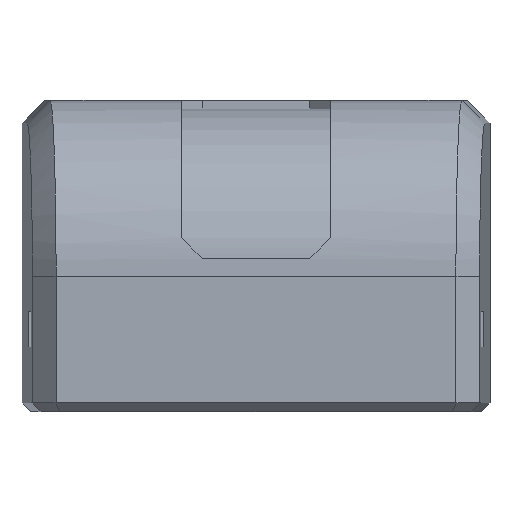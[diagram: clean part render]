
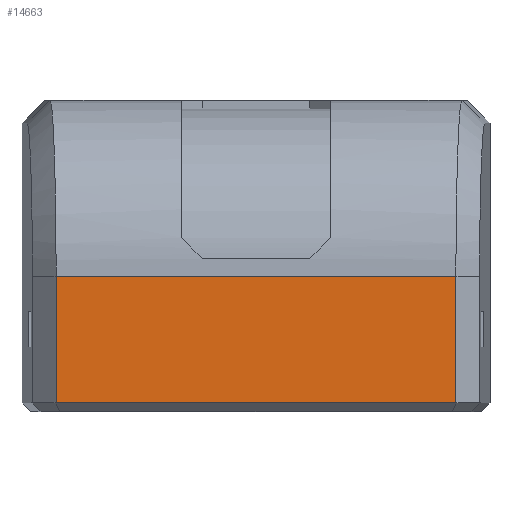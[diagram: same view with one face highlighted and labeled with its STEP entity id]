
A CAD part, front view. The second image highlights one B-rep face of the part: STEP entity #14663.
In plain terms, the highlighted planar face has unit normal (0, -1, 0).
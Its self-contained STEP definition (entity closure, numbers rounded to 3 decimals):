
#3241 = CYLINDRICAL_SURFACE('',#3242,10.);
#3242 = AXIS2_PLACEMENT_3D('',#3243,#3244,#3245);
#3243 = CARTESIAN_POINT('',(200.,-26.8,18.9));
#3244 = DIRECTION('',(1.,0.,-0.));
#3245 = DIRECTION('',(0.,-1.,0.));
#9103 = PLANE('',#9104);
#9104 = AXIS2_PLACEMENT_3D('',#9105,#9106,#9107);
#9105 = CARTESIAN_POINT('',(-12.71,-35.501,10.2));
#9106 = DIRECTION('',(0.695,0.719,-0.));
#9107 = DIRECTION('',(0.719,-0.695,0.));
#10202 = VERTEX_POINT('',#10203);
#10203 = CARTESIAN_POINT('',(11.364,-36.8,18.9));
#10294 = PLANE('',#10295);
#10295 = AXIS2_PLACEMENT_3D('',#10296,#10297,#10298);
#10296 = CARTESIAN_POINT('',(12.71,-35.501,10.2));
#10297 = DIRECTION('',(0.695,-0.719,0.));
#10298 = DIRECTION('',(-0.719,-0.695,0.));
#10452 = VERTEX_POINT('',#10453);
#10453 = CARTESIAN_POINT('',(-11.364,-36.8,18.9));
#10531 = EDGE_CURVE('',#10202,#10452,#10532,.T.);
#10532 = SURFACE_CURVE('',#10533,(#10537,#10544),.PCURVE_S1.);
#10533 = LINE('',#10534,#10535);
#10534 = CARTESIAN_POINT('',(200.,-36.8,18.9));
#10535 = VECTOR('',#10536,1.);
#10536 = DIRECTION('',(-1.,0.,0.));
#10537 = PCURVE('',#3241,#10538);
#10538 = DEFINITIONAL_REPRESENTATION('',(#10539),#10543);
#10539 = LINE('',#10540,#10541);
#10540 = CARTESIAN_POINT('',(6.283,0.));
#10541 = VECTOR('',#10542,1.);
#10542 = DIRECTION('',(-0.,-1.));
#10543 = ( GEOMETRIC_REPRESENTATION_CONTEXT(2) 
PARAMETRIC_REPRESENTATION_CONTEXT() REPRESENTATION_CONTEXT('2D SPACE',''
  ) );
#10544 = PCURVE('',#10545,#10550);
#10545 = PLANE('',#10546);
#10546 = AXIS2_PLACEMENT_3D('',#10547,#10548,#10549);
#10547 = CARTESIAN_POINT('',(-12.664,-36.8,11.2));
#10548 = DIRECTION('',(0.,1.,0.));
#10549 = DIRECTION('',(1.,0.,0.));
#10550 = DEFINITIONAL_REPRESENTATION('',(#10551),#10555);
#10551 = LINE('',#10552,#10553);
#10552 = CARTESIAN_POINT('',(212.664,-7.7));
#10553 = VECTOR('',#10554,1.);
#10554 = DIRECTION('',(-1.,0.));
#10555 = ( GEOMETRIC_REPRESENTATION_CONTEXT(2) 
PARAMETRIC_REPRESENTATION_CONTEXT() REPRESENTATION_CONTEXT('2D SPACE',''
  ) );
#13948 = B_SPLINE_SURFACE_WITH_KNOTS('',1,1,(
    (#13949,#13950)
    ,(#13951,#13952
    )),.UNSPECIFIED.,.F.,.F.,.F.,(2,2),(2,2),(0.,22.729),(0.,1.),
  .PIECEWISE_BEZIER_KNOTS.);
#13949 = CARTESIAN_POINT('',(11.158,-36.29,11.19));
#13950 = CARTESIAN_POINT('',(11.364,-36.8,11.7));
#13951 = CARTESIAN_POINT('',(-11.158,-36.29,11.19));
#13952 = CARTESIAN_POINT('',(-11.364,-36.8,11.7));
#14336 = EDGE_CURVE('',#10452,#14337,#14339,.T.);
#14337 = VERTEX_POINT('',#14338);
#14338 = CARTESIAN_POINT('',(-11.364,-36.8,11.7));
#14339 = SURFACE_CURVE('',#14340,(#14343,#14349),.PCURVE_S1.);
#14340 = B_SPLINE_CURVE_WITH_KNOTS('',1,(#14341,#14342),.UNSPECIFIED.,
  .F.,.F.,(2,2),(0.,1.),.PIECEWISE_BEZIER_KNOTS.);
#14341 = CARTESIAN_POINT('',(-11.364,-36.8,18.9));
#14342 = CARTESIAN_POINT('',(-11.364,-36.8,10.2));
#14343 = PCURVE('',#9103,#14344);
#14344 = DEFINITIONAL_REPRESENTATION('',(#14345),#14348);
#14345 = B_SPLINE_CURVE_WITH_KNOTS('',1,(#14346,#14347),.UNSPECIFIED.,
  .F.,.F.,(2,2),(0.,1.),.PIECEWISE_BEZIER_KNOTS.);
#14346 = CARTESIAN_POINT('',(1.87,-8.7));
#14347 = CARTESIAN_POINT('',(1.87,0.));
#14348 = ( GEOMETRIC_REPRESENTATION_CONTEXT(2) 
PARAMETRIC_REPRESENTATION_CONTEXT() REPRESENTATION_CONTEXT('2D SPACE',''
  ) );
#14349 = PCURVE('',#10545,#14350);
#14350 = DEFINITIONAL_REPRESENTATION('',(#14351),#14354);
#14351 = B_SPLINE_CURVE_WITH_KNOTS('',1,(#14352,#14353),.UNSPECIFIED.,
  .F.,.F.,(2,2),(0.,1.),.PIECEWISE_BEZIER_KNOTS.);
#14352 = CARTESIAN_POINT('',(1.3,-7.7));
#14353 = CARTESIAN_POINT('',(1.3,1.));
#14354 = ( GEOMETRIC_REPRESENTATION_CONTEXT(2) 
PARAMETRIC_REPRESENTATION_CONTEXT() REPRESENTATION_CONTEXT('2D SPACE',''
  ) );
#14490 = EDGE_CURVE('',#10202,#14491,#14493,.T.);
#14491 = VERTEX_POINT('',#14492);
#14492 = CARTESIAN_POINT('',(11.364,-36.8,11.7));
#14493 = SURFACE_CURVE('',#14494,(#14497,#14503),.PCURVE_S1.);
#14494 = B_SPLINE_CURVE_WITH_KNOTS('',1,(#14495,#14496),.UNSPECIFIED.,
  .F.,.F.,(2,2),(0.,1.),.PIECEWISE_BEZIER_KNOTS.);
#14495 = CARTESIAN_POINT('',(11.364,-36.8,18.9));
#14496 = CARTESIAN_POINT('',(11.364,-36.8,10.2));
#14497 = PCURVE('',#10294,#14498);
#14498 = DEFINITIONAL_REPRESENTATION('',(#14499),#14502);
#14499 = B_SPLINE_CURVE_WITH_KNOTS('',1,(#14500,#14501),.UNSPECIFIED.,
  .F.,.F.,(2,2),(0.,1.),.PIECEWISE_BEZIER_KNOTS.);
#14500 = CARTESIAN_POINT('',(1.87,-8.7));
#14501 = CARTESIAN_POINT('',(1.87,0.));
#14502 = ( GEOMETRIC_REPRESENTATION_CONTEXT(2) 
PARAMETRIC_REPRESENTATION_CONTEXT() REPRESENTATION_CONTEXT('2D SPACE',''
  ) );
#14503 = PCURVE('',#10545,#14504);
#14504 = DEFINITIONAL_REPRESENTATION('',(#14505),#14508);
#14505 = B_SPLINE_CURVE_WITH_KNOTS('',1,(#14506,#14507),.UNSPECIFIED.,
  .F.,.F.,(2,2),(0.,1.),.PIECEWISE_BEZIER_KNOTS.);
#14506 = CARTESIAN_POINT('',(24.029,-7.7));
#14507 = CARTESIAN_POINT('',(24.029,1.));
#14508 = ( GEOMETRIC_REPRESENTATION_CONTEXT(2) 
PARAMETRIC_REPRESENTATION_CONTEXT() REPRESENTATION_CONTEXT('2D SPACE',''
  ) );
#14663 = ADVANCED_FACE('',(#14664),#10545,.F.);
#14664 = FACE_BOUND('',#14665,.F.);
#14665 = EDGE_LOOP('',(#14666,#14687,#14688,#14689));
#14666 = ORIENTED_EDGE('',*,*,#14667,.T.);
#14667 = EDGE_CURVE('',#14491,#14337,#14668,.T.);
#14668 = SURFACE_CURVE('',#14669,(#14673,#14680),.PCURVE_S1.);
#14669 = LINE('',#14670,#14671);
#14670 = CARTESIAN_POINT('',(11.364,-36.8,11.7));
#14671 = VECTOR('',#14672,1.);
#14672 = DIRECTION('',(-1.,0.,0.));
#14673 = PCURVE('',#10545,#14674);
#14674 = DEFINITIONAL_REPRESENTATION('',(#14675),#14679);
#14675 = LINE('',#14676,#14677);
#14676 = CARTESIAN_POINT('',(24.029,-0.5));
#14677 = VECTOR('',#14678,1.);
#14678 = DIRECTION('',(-1.,0.));
#14679 = ( GEOMETRIC_REPRESENTATION_CONTEXT(2) 
PARAMETRIC_REPRESENTATION_CONTEXT() REPRESENTATION_CONTEXT('2D SPACE',''
  ) );
#14680 = PCURVE('',#13948,#14681);
#14681 = DEFINITIONAL_REPRESENTATION('',(#14682),#14686);
#14682 = LINE('',#14683,#14684);
#14683 = CARTESIAN_POINT('',(0.,1.));
#14684 = VECTOR('',#14685,1.);
#14685 = DIRECTION('',(1.,0.));
#14686 = ( GEOMETRIC_REPRESENTATION_CONTEXT(2) 
PARAMETRIC_REPRESENTATION_CONTEXT() REPRESENTATION_CONTEXT('2D SPACE',''
  ) );
#14687 = ORIENTED_EDGE('',*,*,#14336,.F.);
#14688 = ORIENTED_EDGE('',*,*,#10531,.F.);
#14689 = ORIENTED_EDGE('',*,*,#14490,.T.);
